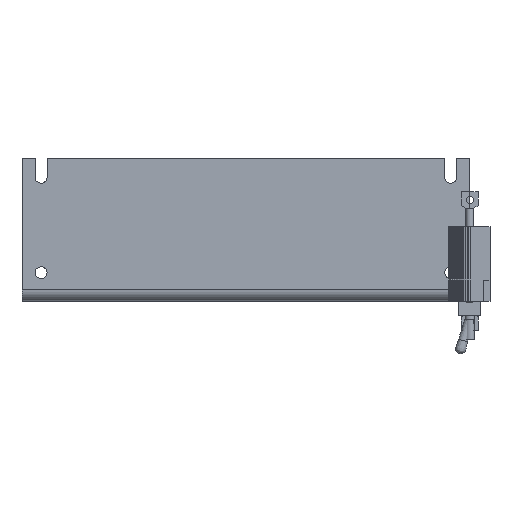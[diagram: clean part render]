
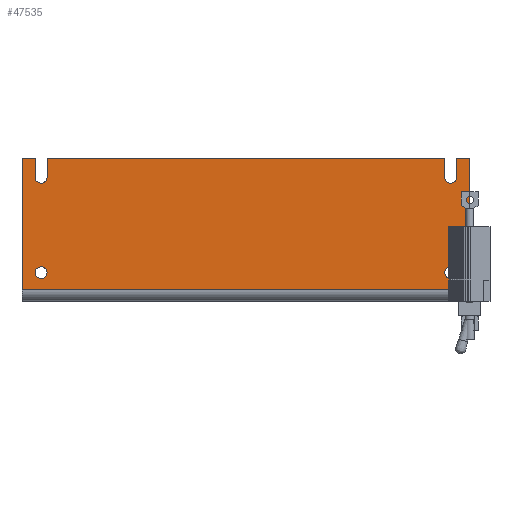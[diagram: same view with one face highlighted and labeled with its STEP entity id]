
A CAD part, left-side view. The second image highlights one B-rep face of the part: STEP entity #47535.
In plain terms, the highlighted planar face has unit normal (-1, 0, 0).
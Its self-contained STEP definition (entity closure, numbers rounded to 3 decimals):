
#1407=LINE('',#82525,#72854);
#1412=LINE('',#82540,#72859);
#1415=LINE('',#82546,#72862);
#1420=LINE('',#82561,#72867);
#1425=LINE('',#82576,#72872);
#1426=LINE('',#82578,#72873);
#1427=LINE('',#82580,#72874);
#1428=LINE('',#82582,#72875);
#15613=VERTEX_POINT('',#82523);
#15614=VERTEX_POINT('',#82526);
#15615=VERTEX_POINT('',#82527);
#15618=VERTEX_POINT('',#82535);
#15620=VERTEX_POINT('',#82541);
#15622=VERTEX_POINT('',#82547);
#15623=VERTEX_POINT('',#82548);
#15626=VERTEX_POINT('',#82556);
#15628=VERTEX_POINT('',#82562);
#15631=VERTEX_POINT('',#82570);
#15633=VERTEX_POINT('',#82575);
#15634=VERTEX_POINT('',#82579);
#15635=VERTEX_POINT('',#82581);
#15636=VERTEX_POINT('',#82583);
#20108=EDGE_CURVE('',#15613,#15613,#57673,.T.);
#20109=EDGE_CURVE('',#15614,#15615,#1407,.T.);
#20113=EDGE_CURVE('',#15618,#15614,#57674,.T.);
#20116=EDGE_CURVE('',#15620,#15618,#1412,.T.);
#20119=EDGE_CURVE('',#15622,#15623,#1415,.T.);
#20123=EDGE_CURVE('',#15626,#15622,#57676,.T.);
#20126=EDGE_CURVE('',#15628,#15626,#1420,.T.);
#20130=EDGE_CURVE('',#15631,#15631,#57679,.T.);
#20133=EDGE_CURVE('',#15633,#15623,#1425,.T.);
#20135=EDGE_CURVE('',#15628,#15615,#1425,.T.);
#20136=EDGE_CURVE('',#15634,#15633,#1426,.T.);
#20137=EDGE_CURVE('',#15635,#15634,#1427,.T.);
#20138=EDGE_CURVE('',#15636,#15635,#1428,.T.);
#20139=EDGE_CURVE('',#15620,#15636,#1425,.T.);
#26870=ORIENTED_EDGE('',*,*,#20116,.T.);
#26871=ORIENTED_EDGE('',*,*,#20113,.T.);
#26872=ORIENTED_EDGE('',*,*,#20109,.T.);
#26873=ORIENTED_EDGE('',*,*,#20135,.F.);
#26874=ORIENTED_EDGE('',*,*,#20126,.T.);
#26875=ORIENTED_EDGE('',*,*,#20123,.T.);
#26876=ORIENTED_EDGE('',*,*,#20119,.T.);
#26877=ORIENTED_EDGE('',*,*,#20133,.F.);
#26878=ORIENTED_EDGE('',*,*,#20136,.F.);
#26879=ORIENTED_EDGE('',*,*,#20137,.F.);
#26880=ORIENTED_EDGE('',*,*,#20138,.F.);
#26881=ORIENTED_EDGE('',*,*,#20139,.F.);
#26882=ORIENTED_EDGE('',*,*,#20130,.T.);
#26883=ORIENTED_EDGE('',*,*,#20108,.T.);
#40172=EDGE_LOOP('',(#26870,#26871,#26872,#26873,#26874,#26875,#26876,#26877,
#26878,#26879,#26880,#26881));
#40173=EDGE_LOOP('',(#26882));
#40174=EDGE_LOOP('',(#26883));
#43877=FACE_BOUND('',#40172,.T.);
#43878=FACE_BOUND('',#40173,.T.);
#43879=FACE_BOUND('',#40174,.T.);
#47535=ADVANCED_FACE('',(#43877,#43878,#43879),#78109,.F.);
#57673=CIRCLE('',#68514,0.159);
#57674=CIRCLE('',#68517,0.159);
#57676=CIRCLE('',#68522,0.159);
#57679=CIRCLE('',#68527,0.159);
#68514=AXIS2_PLACEMENT_3D('',#82522,#147038,#147039);
#68517=AXIS2_PLACEMENT_3D('',#82534,#147047,#147048);
#68522=AXIS2_PLACEMENT_3D('',#82555,#147063,#147064);
#68527=AXIS2_PLACEMENT_3D('',#82569,#147076,#147077);
#68529=AXIS2_PLACEMENT_3D('',#82577,#147082,$);
#72854=VECTOR('',#147041,1.);
#72859=VECTOR('',#147053,1.);
#72862=VECTOR('',#147057,1.);
#72867=VECTOR('',#147069,1.);
#72872=VECTOR('',#147081,1.);
#72873=VECTOR('',#147083,1.);
#72874=VECTOR('',#147084,1.);
#72875=VECTOR('',#147085,1.);
#78109=PLANE('',#68529);
#82522=CARTESIAN_POINT('',(0.,0.508,0.762));
#82523=CARTESIAN_POINT('',(0.,0.508,0.921));
#82525=CARTESIAN_POINT('',(0.,0.667,2.901));
#82526=CARTESIAN_POINT('',(0.,0.667,3.302));
#82527=CARTESIAN_POINT('',(0.,0.667,3.81));
#82534=CARTESIAN_POINT('',(0.,0.508,3.302));
#82535=CARTESIAN_POINT('',(0.,0.349,3.302));
#82540=CARTESIAN_POINT('',(0.,0.349,2.647));
#82541=CARTESIAN_POINT('',(0.,0.349,3.81));
#82546=CARTESIAN_POINT('',(0.,11.589,2.901));
#82547=CARTESIAN_POINT('',(0.,11.589,3.302));
#82548=CARTESIAN_POINT('',(0.,11.589,3.81));
#82555=CARTESIAN_POINT('',(0.,11.43,3.302));
#82556=CARTESIAN_POINT('',(0.,11.271,3.302));
#82561=CARTESIAN_POINT('',(0.,11.271,2.647));
#82562=CARTESIAN_POINT('',(0.,11.271,3.81));
#82569=CARTESIAN_POINT('',(0.,11.43,0.762));
#82570=CARTESIAN_POINT('',(0.,11.43,0.921));
#82575=CARTESIAN_POINT('',(0.,11.938,3.81));
#82576=CARTESIAN_POINT('',(0.,0.,3.81));
#82577=CARTESIAN_POINT('',(0.,5.969,1.991));
#82578=CARTESIAN_POINT('',(0.,11.938,3.81));
#82579=CARTESIAN_POINT('',(0.,11.938,0.305));
#82580=CARTESIAN_POINT('',(0.,8.954,0.305));
#82581=CARTESIAN_POINT('',(0.,0.,0.305));
#82582=CARTESIAN_POINT('',(0.,0.,0.172));
#82583=CARTESIAN_POINT('',(0.,0.,3.81));
#147038=DIRECTION('',(1.,0.,0.));
#147039=DIRECTION('',(0.,0.,-0.159));
#147041=DIRECTION('',(0.,0.,1.));
#147047=DIRECTION('',(1.,0.,0.));
#147048=DIRECTION('',(0.,0.,-0.159));
#147053=DIRECTION('',(0.,0.,-1.));
#147057=DIRECTION('',(0.,0.,1.));
#147063=DIRECTION('',(1.,0.,0.));
#147064=DIRECTION('',(0.,0.,-0.159));
#147069=DIRECTION('',(0.,0.,-1.));
#147076=DIRECTION('',(1.,0.,0.));
#147077=DIRECTION('',(0.,0.,-0.159));
#147081=DIRECTION('',(0.,-1.,0.));
#147082=DIRECTION('',(1.,0.,0.));
#147083=DIRECTION('',(0.,0.,1.));
#147084=DIRECTION('',(0.,1.,0.));
#147085=DIRECTION('',(0.,0.,-1.));
